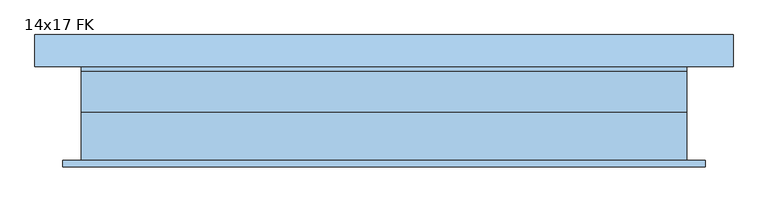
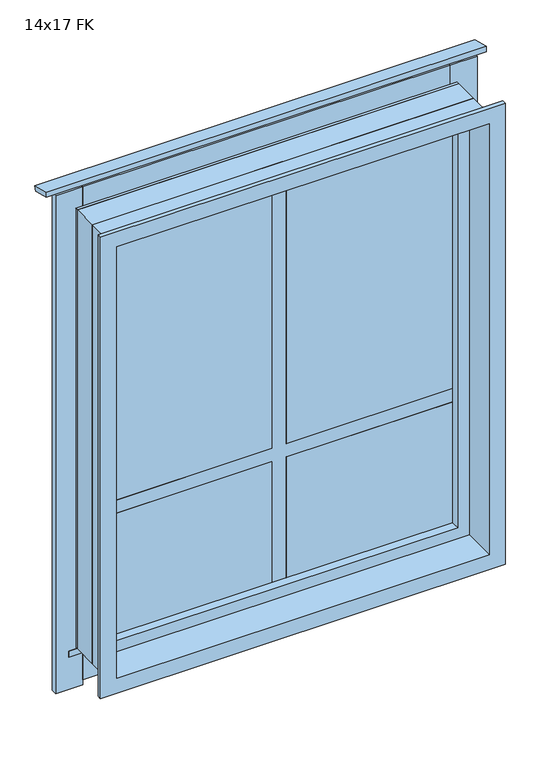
"""IFC4 building model written with IfcOpenShell, lengths in millimetres: window geometry, Vindu FKS 2x2-J : 14x17 FK."""

from ifc_helpers import new_model, si_unit, frame, origin, place, context, project, spatial, polyline, outline, extrude, faceted_brep, source, transform, mapped, element, save


def window_14x17_fk_b532f911(model_context):
    return source(origin(), model_context, "Body", "SolidModel", [
        extrude(outline(polyline([(179.444437, 2053.1537013), (174.5268751, 2034.8011106), (107.0, 2052.8948822), (107.0, 2072.5651297), (179.444437, 2053.1537013)])), frame((-795.0, 0.0, 0.0), z_axis=(1.0, 0.0, 0.0), x_axis=(0.0, 1.0, 0.0)), (0.0, 0.0, 1.0), 1590.0),
        extrude(outline(polyline([(155.2962913, 276.6791642), (149.6022723, 255.4287961), (107.0, 266.8440405), (107.0, 289.6201165), (155.2962913, 276.6791642)])), frame((-715.0, 0.0, 0.0), z_axis=(1.0, 0.0, 0.0), x_axis=(0.0, 1.0, 0.0)), (0.0, 0.0, 1.0), 1430.0),
        extrude(outline(polyline([(-664.0, 107.0), (-664.0, 129.0), (664.0, 129.0), (664.0, 107.0), (-664.0, 107.0)])), frame((0.0, 0.0, 163.0051732), z_axis=(0.0, 0.0, 1.0), x_axis=(1.0, 0.0, 0.0)), (0.0, 0.0, 1.0), 98.0),
        extrude(outline(polyline([(-664.0, 107.0), (-664.0, 129.0), (664.0, 129.0), (664.0, 107.0), (-664.0, 107.0)])), frame((0.0, 0.0, 1949.0), z_axis=(0.0, 0.0, 1.0), x_axis=(1.0, 0.0, 0.0)), (0.0, 0.0, 1.0), 98.0),
        extrude(outline(polyline([(762.0, 107.0), (664.0, 107.0), (664.0, 129.0), (762.0, 129.0), (762.0, 107.0)])), frame((0.0, 0.0, 143.0), z_axis=(0.0, 0.0, 1.0), x_axis=(1.0, 0.0, 0.0)), (0.0, 0.0, 1.0), 1904.0),
        extrude(outline(polyline([(-664.0, 107.0), (-762.0, 107.0), (-762.0, 129.0), (-664.0, 129.0), (-664.0, 107.0)])), frame((0.0, 0.0, 143.0), z_axis=(0.0, 0.0, 1.0), x_axis=(1.0, 0.0, 0.0)), (0.0, 0.0, 1.0), 1904.0),
        extrude(outline(polyline([(815.0, 30.0), (815.0, 650.0), (865.0, 650.0), (865.0, 30.0), (1935.0, 30.0), (1935.0, 5.0), (1935.0, -20.0), (865.0, -20.0), (865.0, -650.0), (815.0, -650.0), (815.0, -20.0), (335.0, -20.0), (335.0, 30.0), (815.0, 30.0)])), frame((0.0, 35.0, 0.0), z_axis=(0.0, 1.0, 0.0), x_axis=(0.0, 0.0, 1.0)), (0.0, 0.0, 1.0), 60.0),
        extrude(outline(polyline([(30.0, 59.0), (650.0, 59.0), (650.0, 35.0), (30.0, 35.0), (30.0, 59.0)])), frame((0.0, 0.0, 335.0), z_axis=(0.0, 0.0, 1.0), x_axis=(1.0, 0.0, 0.0)), (0.0, 0.0, 1.0), 480.0),
        extrude(outline(polyline([(-650.0, 59.0), (-20.0, 59.0), (-20.0, 35.0), (-650.0, 35.0), (-650.0, 59.0)])), frame((0.0, 0.0, 335.0), z_axis=(0.0, 0.0, 1.0), x_axis=(1.0, 0.0, 0.0)), (0.0, 0.0, 1.0), 480.0),
        extrude(outline(polyline([(30.0, 59.0), (650.0, 59.0), (650.0, 35.0), (30.0, 35.0), (30.0, 59.0)])), frame((0.0, 0.0, 865.0), z_axis=(0.0, 0.0, 1.0), x_axis=(1.0, 0.0, 0.0)), (0.0, 0.0, 1.0), 1070.0),
        extrude(outline(polyline([(-650.0, 59.0), (-20.0, 59.0), (-20.0, 35.0), (-650.0, 35.0), (-650.0, 59.0)])), frame((0.0, 0.0, 865.0), z_axis=(0.0, 0.0, 1.0), x_axis=(1.0, 0.0, 0.0)), (0.0, 0.0, 1.0), 1070.0),
        faceted_brep([(-689.0, 95.0, 296.0), (-689.0, 3.0, 296.0), (-689.0, 3.0, 1974.0), (-689.0, 95.0, 1974.0), (-650.0, 35.0, 335.0), (-650.0, 95.0, 335.0), (-650.0, 95.0, 1935.0), (-650.0, 35.0, 1935.0), (-632.0, 3.0, 353.0), (-632.0, 35.0, 353.0), (-632.0, 35.0, 1917.0), (-632.0, 3.0, 1917.0), (689.0, 3.0, 1974.0), (689.0, 95.0, 1974.0), (650.0, 95.0, 1935.0), (650.0, 35.0, 1935.0), (632.0, 35.0, 1917.0), (632.0, 3.0, 1917.0), (689.0, 3.0, 296.0), (689.0, 95.0, 296.0), (650.0, 95.0, 335.0), (650.0, 35.0, 335.0), (632.0, 35.0, 353.0), (632.0, 3.0, 353.0)], [[[0, 1, 2, 3]], [[4, 5, 6, 7]], [[8, 9, 10, 11]], [[3, 2, 12, 13]], [[7, 6, 14, 15]], [[11, 10, 16, 17]], [[13, 12, 18, 19]], [[15, 14, 20, 21]], [[17, 16, 22, 23]], [[19, 18, 1, 0]], [[3, 13, 19, 0], [5, 20, 14, 6]], [[21, 20, 5, 4]], [[7, 15, 21, 4], [9, 22, 16, 10]], [[23, 22, 9, 8]], [[1, 18, 12, 2], [11, 17, 23, 8]]]),
        extrude(outline(polyline([(296.0, 664.0), (296.0, 689.0), (1974.0, 689.0), (1974.0, -689.0), (296.0, -689.0), (296.0, -664.0), (1949.0, -664.0), (1949.0, 664.0), (296.0, 664.0)])), frame((0.0, 95.0, 0.0), z_axis=(0.0, 1.0, 0.0), x_axis=(0.0, 0.0, 1.0)), (0.0, 0.0, 1.0), 12.0),
        faceted_brep([(-689.0, -107.0, 296.0), (-689.0, 3.0, 296.0), (689.0, 3.0, 296.0), (689.0, -107.0, 296.0), (689.0, 3.0, 1974.0), (689.0, -107.0, 1974.0), (-689.0, 3.0, 1974.0), (674.0, 3.0, 1959.0), (-674.0, 3.0, 1959.0), (-674.0, 3.0, 311.0), (674.0, 3.0, 311.0), (732.0, -107.0, 253.0), (-732.0, -107.0, 253.0), (-732.0, -107.0, 2017.0), (732.0, -107.0, 2017.0), (-689.0, -107.0, 1974.0), (-732.0, -122.0, 253.0), (732.0, -122.0, 253.0), (732.0, -122.0, 2017.0), (-732.0, -122.0, 2017.0), (674.0, -122.0, 311.0), (-674.0, -122.0, 311.0), (-674.0, -122.0, 1959.0), (674.0, -122.0, 1959.0)], [[[0, 1, 2, 3]], [[3, 2, 4, 5]], [[2, 1, 6, 4], [7, 8, 9, 10]], [[11, 12, 13, 14], [5, 15, 0, 3]], [[16, 12, 11, 17]], [[17, 11, 14, 18]], [[18, 19, 16, 17], [20, 21, 22, 23]], [[9, 21, 20, 10]], [[10, 20, 23, 7]], [[15, 6, 1, 0]], [[19, 13, 12, 16]], [[8, 22, 21, 9]], [[5, 4, 6, 15]], [[18, 14, 13, 19]], [[7, 23, 22, 8]]]),
    ])


if __name__ == "__main__":
    model = new_model("IFC4")
    model_context = context("Model", 3, world=origin())
    ifc_project = project(units=[si_unit("LENGTHUNIT", "METRE", prefix="MILLI")], contexts=[model_context])
    site = spatial("IfcSite", under=ifc_project)
    building = spatial("IfcBuilding", under=site)
    placement = place(None, origin())
    window_14x17_fk_shape = window_14x17_fk_b532f911(model_context)
    element("IfcWindow", 1, ObjectType="Vindu FKS 2x2-J : 14x17 FK", at=placement, inside=building, context=model_context, shape_type="MappedRepresentation", body=[
        mapped(window_14x17_fk_shape, transform((0.0, 0.0, 0.0), x_axis=(1.0, 0.0, 0.0), y_axis=(0.0, 1.0, 0.0), z_axis=(0.0, 0.0, 1.0))),
    ])
    save(model, "model.ifc")
